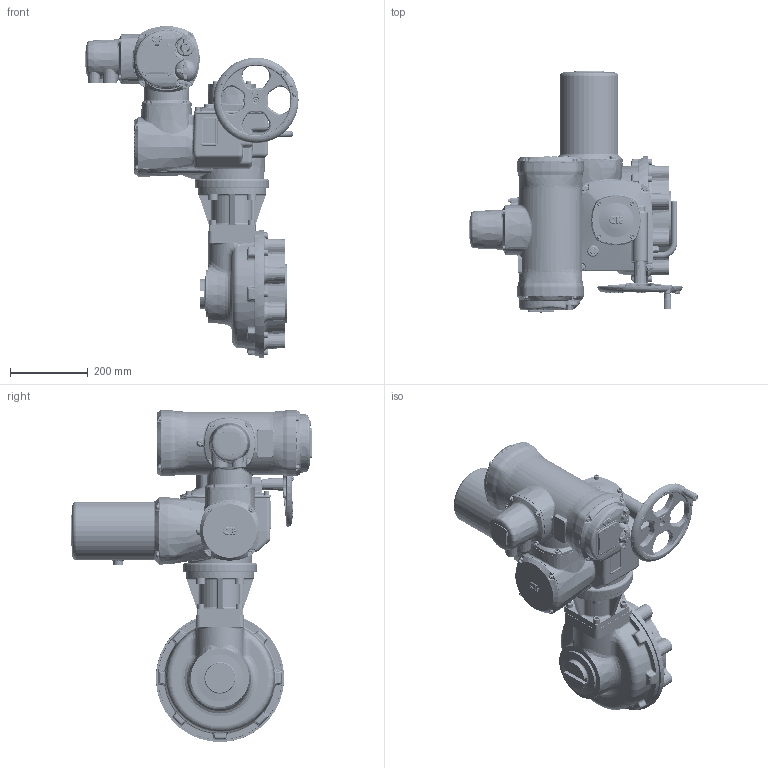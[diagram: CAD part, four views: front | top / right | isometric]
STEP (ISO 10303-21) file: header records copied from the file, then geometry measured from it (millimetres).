
FILE_DESCRIPTION(/* description */ ('Unknown'),/* implementation_level */ '2;1');
FILE_NAME(/* name */ 'A6B9N0BS00X-1',/* time_stamp */ '2018-05-18T09:17:23+06:00',/* author */ ('Unknown'),/* organization */ ('Unknown'),/* preprocessor_version */ 'ST-DEVELOPER v16.7',/* originating_system */ 'DEX',/* authorisation */ $);
FILE_SCHEMA (('AUTOMOTIVE_DESIGN {1 0 10303 214 3 1 1}'));
Length unit declared in the file: millimetre
Products named in the file (7): A6B9N0BS00X-1; CK3-01; CK3-04 - NRS; CK3-05; CK0-06; CK0-20 Terminal Cover; IB9-FA_F14-FA25
Assembly tree (6 placements, depth 2):
  A6B9N0BS00X-1
    CK3-01
    CK3-04 - NRS
    CK3-05
    CK0-06
    CK0-20 Terminal Cover
    IB9-FA_F14-FA25
Bounding box: 548.57 x 621.7 x 854.4 mm (x, y, z)
Volume: 39568941.6 mm3; surface area: 1725123.7 mm2
Topology: 8 solids, 56 shells, 13598 faces, 33249 edges, 19919 vertices
Faces by surface type: plane 4842, bspline 3680, cylinder 3029, torus 1012, cone 701, sphere 334
Full cylindrical faces by diameter (mm): 0.6 x2, 1.152 x1, 3 x2, 3.2 x1, 4.2 x6, 4.4 x1, 4.5 x5, 4.917 x28, 5.5 x4, 6 x11, 6.45 x1, 6.47 x1, 6.5 x8, 6.6 x4, 6.647 x12, 7 x5, 8 x5, 8.2 x1, 10 x30, 10.22 x4, 10.5 x4, 11 x1, 11.92 x1, 12 x5, 12.5 x4, 13 x10, 13.25 x4, 13.376 x8, 13.5 x9, 13.835 x4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
Entity records: 592980 total; most frequent: CARTESIAN_POINT 219309, ORIENTED_EDGE 63612, DIRECTION 46676, EDGE_CURVE 31806, VERTEX_POINT 19620, AXIS2_PLACEMENT_3D 17576, FACE_BOUND 15010, EDGE_LOOP 14937
